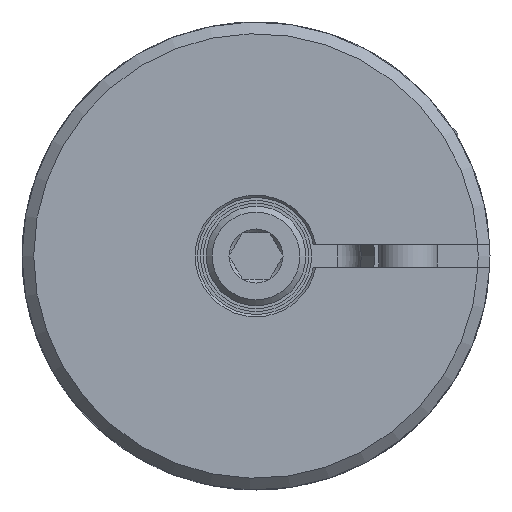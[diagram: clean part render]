
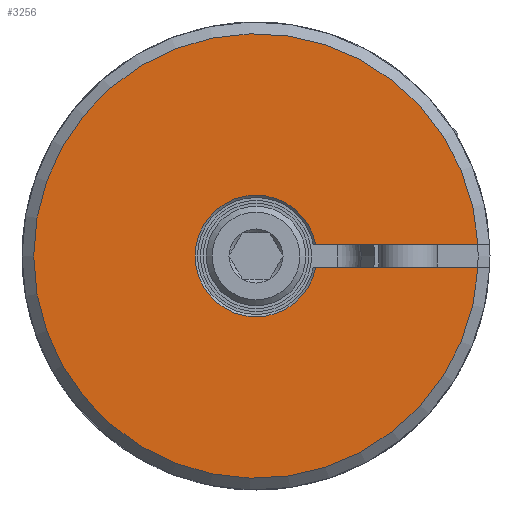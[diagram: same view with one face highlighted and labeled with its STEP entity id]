
A CAD part, left-side view. The second image highlights one B-rep face of the part: STEP entity #3256.
In plain terms, the highlighted planar face has unit normal (-1, 0, 0).
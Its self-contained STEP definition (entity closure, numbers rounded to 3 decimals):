
#142=PLANE('',#4008);
#213=CIRCLE('',#4009,19.);
#214=CIRCLE('',#4010,5.2);
#469=LINE('',#5646,#589);
#470=LINE('',#5651,#590);
#589=VECTOR('',#4512,1000.);
#590=VECTOR('',#4515,1000.);
#719=ORIENTED_EDGE('',*,*,#1699,.T.);
#720=ORIENTED_EDGE('',*,*,#1700,.F.);
#721=ORIENTED_EDGE('',*,*,#1701,.T.);
#722=ORIENTED_EDGE('',*,*,#1702,.T.);
#1699=EDGE_CURVE('',#2189,#2190,#469,.T.);
#1700=EDGE_CURVE('',#2191,#2190,#213,.T.);
#1701=EDGE_CURVE('',#2191,#2192,#470,.T.);
#1702=EDGE_CURVE('',#2192,#2189,#214,.T.);
#2189=VERTEX_POINT('',#5647);
#2190=VERTEX_POINT('',#5648);
#2191=VERTEX_POINT('',#5650);
#2192=VERTEX_POINT('',#5652);
#2616=EDGE_LOOP('',(#719,#720,#721,#722));
#2904=FACE_BOUND('',#2616,.T.);
#3256=ADVANCED_FACE('',(#2904),#142,.F.);
#4008=AXIS2_PLACEMENT_3D('',#5645,#4510,#4511);
#4009=AXIS2_PLACEMENT_3D('',#5649,#4513,#4514);
#4010=AXIS2_PLACEMENT_3D('',#5653,#4516,#4517);
#4510=DIRECTION('',(1.,0.,0.));
#4511=DIRECTION('',(0.,0.,-1.));
#4512=DIRECTION('',(0.,-1.,0.));
#4513=DIRECTION('',(1.,0.,0.));
#4514=DIRECTION('',(0.,0.,-1.));
#4515=DIRECTION('',(0.,1.,0.));
#4516=DIRECTION('',(1.,0.,0.));
#4517=DIRECTION('',(0.,0.,-1.));
#5645=CARTESIAN_POINT('',(0.,0.,0.));
#5646=CARTESIAN_POINT('',(0.,0.,1.));
#5647=CARTESIAN_POINT('',(0.,-5.103,1.));
#5648=CARTESIAN_POINT('',(0.,-18.974,1.));
#5649=CARTESIAN_POINT('',(0.,0.,0.));
#5650=CARTESIAN_POINT('',(0.,-18.974,-1.));
#5651=CARTESIAN_POINT('',(0.,-21.,-1.));
#5652=CARTESIAN_POINT('',(0.,-5.103,-1.));
#5653=CARTESIAN_POINT('',(0.,0.,0.));
